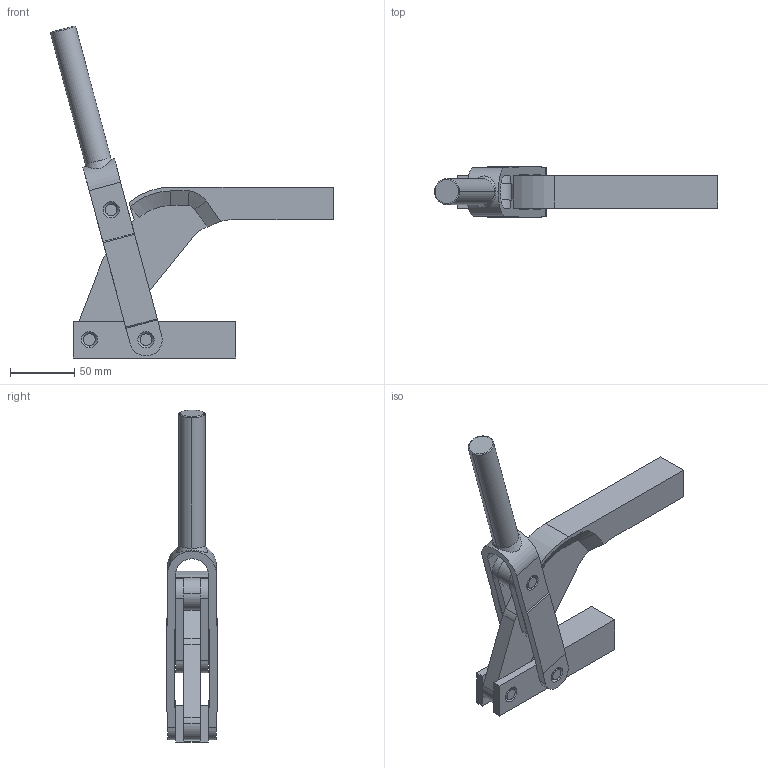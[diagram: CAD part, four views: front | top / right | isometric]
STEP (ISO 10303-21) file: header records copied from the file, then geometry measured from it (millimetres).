
FILE_DESCRIPTION( ( '' ), '1' );
FILE_NAME( 'C:\Documents and Settings\Richard Grenzke\My Documents\Wolverine Company Data\WOLVERINE CD 5_17_05\SOLIDS STEP\hold_down\cq1115.stp', ' ', ( '' ), ( '' ), 'ACIS Interop R16', 'Kubotek KeyCreator V5.5.1 (0454)', ' ' );
FILE_SCHEMA( ( 'CONFIG_CONTROL_DESIGN' ) );
Length unit declared in the file: inch
Products named in the file (10): 1; 2; 3; 4; 5; 6; 7; 8; 9; 10
Bounding box: 220.84 x 39.62 x 259.04 mm (x, y, z)
Volume: 339196.7 mm3; surface area: 88609.8 mm2
Topology: 9 solids, 9 shells, 154 faces, 418 edges, 282 vertices
Faces by surface type: plane 72, cylinder 58, cone 22, torus 2
Entity records: 5587 total; most frequent: CARTESIAN_POINT 1032, DIRECTION 917, ORIENTED_EDGE 836, EDGE_CURVE 418, AXIS2_PLACEMENT_3D 344, VERTEX_POINT 282, LINE 229, VECTOR 229
